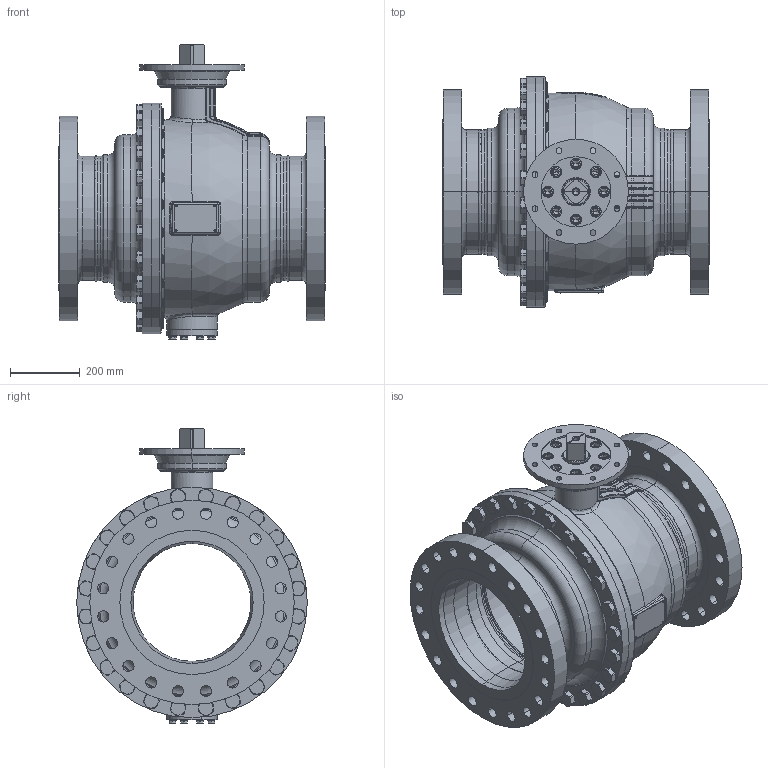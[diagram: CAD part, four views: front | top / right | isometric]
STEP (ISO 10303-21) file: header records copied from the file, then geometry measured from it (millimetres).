
FILE_DESCRIPTION((''),'2;1');
FILE_NAME('KHI-F_350_CL300-F25-4_SW0001','2026-02-05T15:31:34',('fischerkl'),('KLINGER'),'CREO PARAMETRIC BY PTC INC, 2023014','CREO PARAMETRIC BY PTC INC, 2023014','');
FILE_SCHEMA(('CONFIG_CONTROL_DESIGN'));
Products named in the file (1): KHI-F_350_CL300-F25-4_SW0001
Bounding box: 762 x 660 x 842.8 mm (x, y, z)
Volume: 52841830 mm3; surface area: 6460030.7 mm2
Topology: 1 solids, 4 shells, 3425 faces, 8643 edges, 5394 vertices
Faces by surface type: plane 1734, cylinder 813, cone 454, torus 295, bspline 99, sphere 30
Entity records: 144468 total; most frequent: CARTESIAN_POINT 62742, ORIENTED_EDGE 17234, DIRECTION 16953, EDGE_CURVE 8617, AXIS2_PLACEMENT_3D 6471, VERTEX_POINT 5394, VECTOR 4011, LINE 4011
